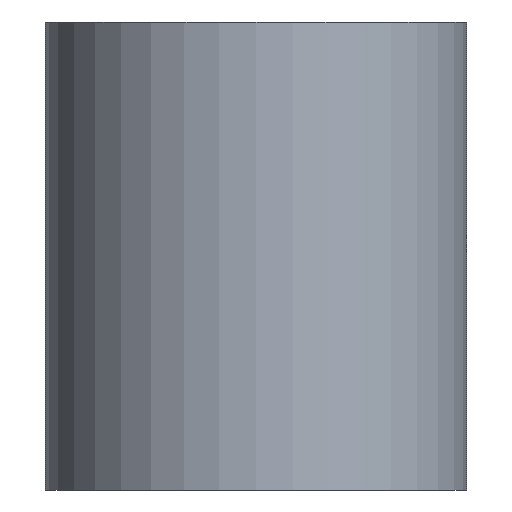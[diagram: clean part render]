
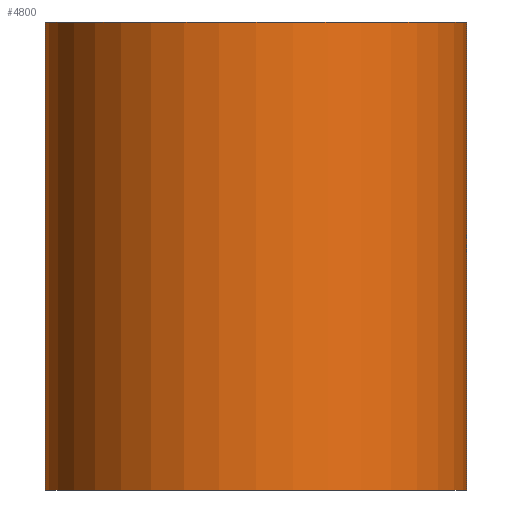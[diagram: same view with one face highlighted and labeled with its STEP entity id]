
A CAD part, left-side view. The second image highlights one B-rep face of the part: STEP entity #4800.
In plain terms, the highlighted cylindrical face has radius 3.6 mm (diameter 7.2 mm), a partial arc.
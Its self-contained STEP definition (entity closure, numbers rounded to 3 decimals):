
#403=LINE('',#8443,#699);
#405=LINE('',#8448,#701);
#699=VECTOR('',#6993,1000.);
#701=VECTOR('',#6999,1000.);
#1851=ORIENTED_EDGE('',*,*,#2676,.T.);
#1852=ORIENTED_EDGE('',*,*,#2677,.F.);
#1853=ORIENTED_EDGE('',*,*,#2614,.F.);
#1854=ORIENTED_EDGE('',*,*,#2674,.T.);
#2614=EDGE_CURVE('',#3096,#3093,#3472,.T.);
#2674=EDGE_CURVE('',#3096,#3156,#403,.T.);
#2676=EDGE_CURVE('',#3156,#3157,#3529,.T.);
#2677=EDGE_CURVE('',#3093,#3157,#405,.T.);
#3093=VERTEX_POINT('',#8266);
#3096=VERTEX_POINT('',#8271);
#3156=VERTEX_POINT('',#8442);
#3157=VERTEX_POINT('',#8447);
#3472=CIRCLE('',#5339,3.6);
#3529=CIRCLE('',#5448,3.6);
#3886=EDGE_LOOP('',(#1851,#1852,#1853,#1854));
#4288=FACE_BOUND('',#3886,.T.);
#4524=CYLINDRICAL_SURFACE('',#5447,3.6);
#4800=ADVANCED_FACE('',(#4288),#4524,.T.);
#5339=AXIS2_PLACEMENT_3D('',#8272,#6774,#6775);
#5447=AXIS2_PLACEMENT_3D('',#8445,#6995,#6996);
#5448=AXIS2_PLACEMENT_3D('',#8446,#6997,#6998);
#6774=DIRECTION('',(0.,0.,1.));
#6775=DIRECTION('',(1.,0.,0.));
#6993=DIRECTION('',(0.,0.,-1.));
#6995=DIRECTION('',(0.,0.,-1.));
#6996=DIRECTION('',(-1.,0.,0.));
#6997=DIRECTION('',(0.,0.,1.));
#6998=DIRECTION('',(1.,0.,0.));
#6999=DIRECTION('',(0.,0.,-1.));
#8266=CARTESIAN_POINT('',(-48.,-3.6,8.));
#8271=CARTESIAN_POINT('',(-48.,3.6,8.));
#8272=CARTESIAN_POINT('',(-48.,0.,8.));
#8442=CARTESIAN_POINT('',(-48.,3.6,0.));
#8443=CARTESIAN_POINT('',(-48.,3.6,8.));
#8445=CARTESIAN_POINT('',(-48.,0.,8.));
#8446=CARTESIAN_POINT('',(-48.,0.,0.));
#8447=CARTESIAN_POINT('',(-48.,-3.6,0.));
#8448=CARTESIAN_POINT('',(-48.,-3.6,8.));
